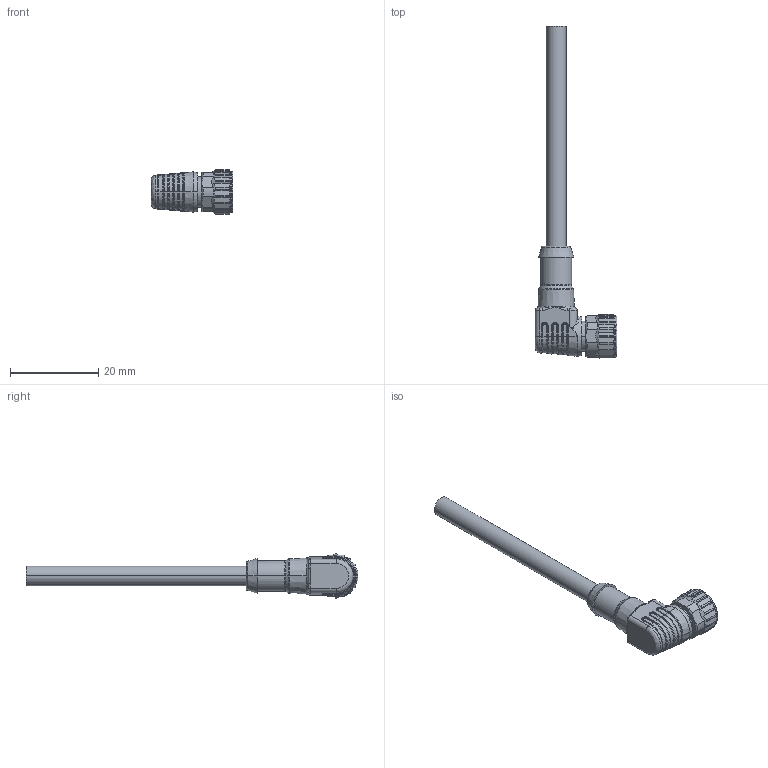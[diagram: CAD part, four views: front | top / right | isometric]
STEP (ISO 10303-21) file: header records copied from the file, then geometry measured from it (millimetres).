
FILE_DESCRIPTION (( 'STEP AP203' ), '1' );
FILE_NAME ('63S063.STEP', '2023-07-12T09:44:56', ( '' ), ( '' ), 'SwSTEP 2.0', 'SolidWorks 2016', '' );
FILE_SCHEMA (( 'CONFIG_CONTROL_DESIGN' ));
Length unit declared in the file: millimetre
Products named in the file (1): 63S063
Bounding box: 18.5 x 75.41 x 10 mm (x, y, z)
Volume: 2602.5 mm3; surface area: 2350.9 mm2
Topology: 1 solids, 2 shells, 410 faces, 1011 edges, 610 vertices
Faces by surface type: cylinder 138, plane 118, cone 81, bspline 72, torus 1
Entity records: 17886 total; most frequent: CARTESIAN_POINT 8914, ORIENTED_EDGE 2022, DIRECTION 1687, EDGE_CURVE 1011, AXIS2_PLACEMENT_3D 683, VERTEX_POINT 610, EDGE_LOOP 429, FACE_OUTER_BOUND 410
